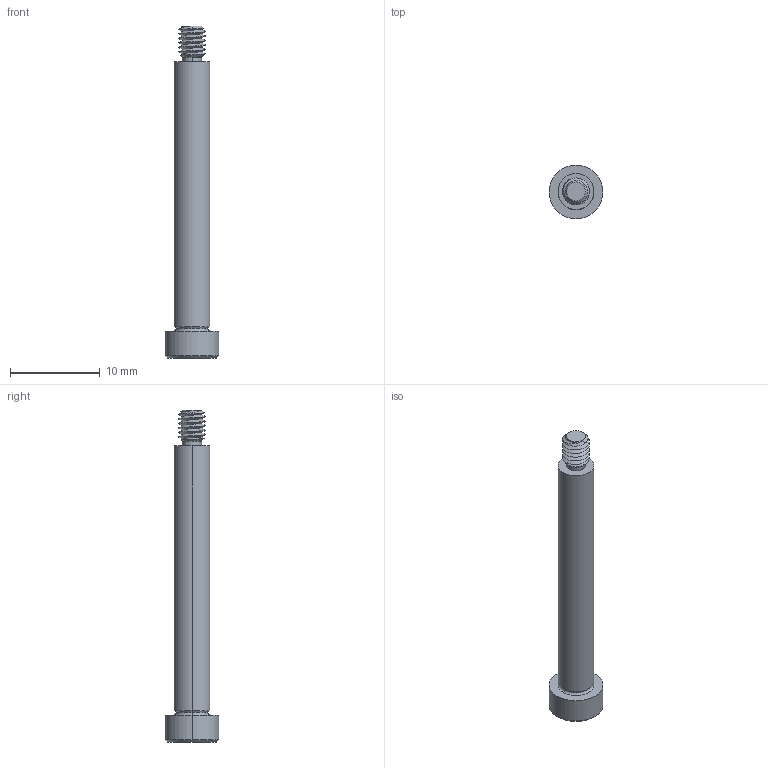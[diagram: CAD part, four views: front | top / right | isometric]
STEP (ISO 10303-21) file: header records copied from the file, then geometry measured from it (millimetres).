
FILE_DESCRIPTION (( 'STEP AP203' ), '1' );
FILE_NAME ('P0130.040-030-B2.step', '2021-11-09T21:06:58', ( '' ), ( '' ), 'SwSTEP 2.0', 'SolidWorks 2019', '' );
FILE_SCHEMA (( 'CONFIG_CONTROL_DESIGN' ));
Length unit declared in the file: millimetre
Products named in the file (1): P0130.040-030-B2
Bounding box: 6 x 6 x 37 mm (x, y, z)
Volume: 472.3 mm3; surface area: 561.3 mm2
Topology: 1 solids, 1 shells, 54 faces, 124 edges, 73 vertices
Faces by surface type: cylinder 18, plane 16, cone 14, torus 4, bspline 2
Entity records: 2218 total; most frequent: CARTESIAN_POINT 1016, ORIENTED_EDGE 244, DIRECTION 229, EDGE_CURVE 122, AXIS2_PLACEMENT_3D 93, VERTEX_POINT 73, EDGE_LOOP 57, ADVANCED_FACE 54
